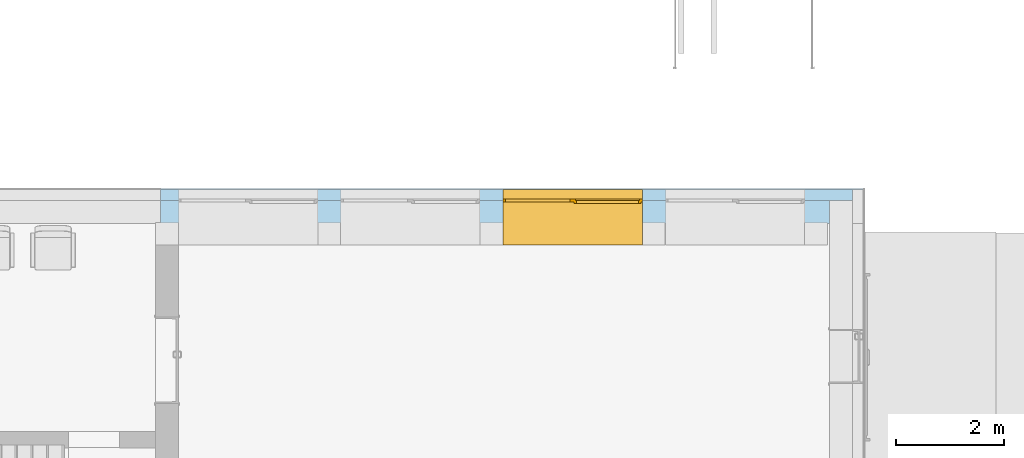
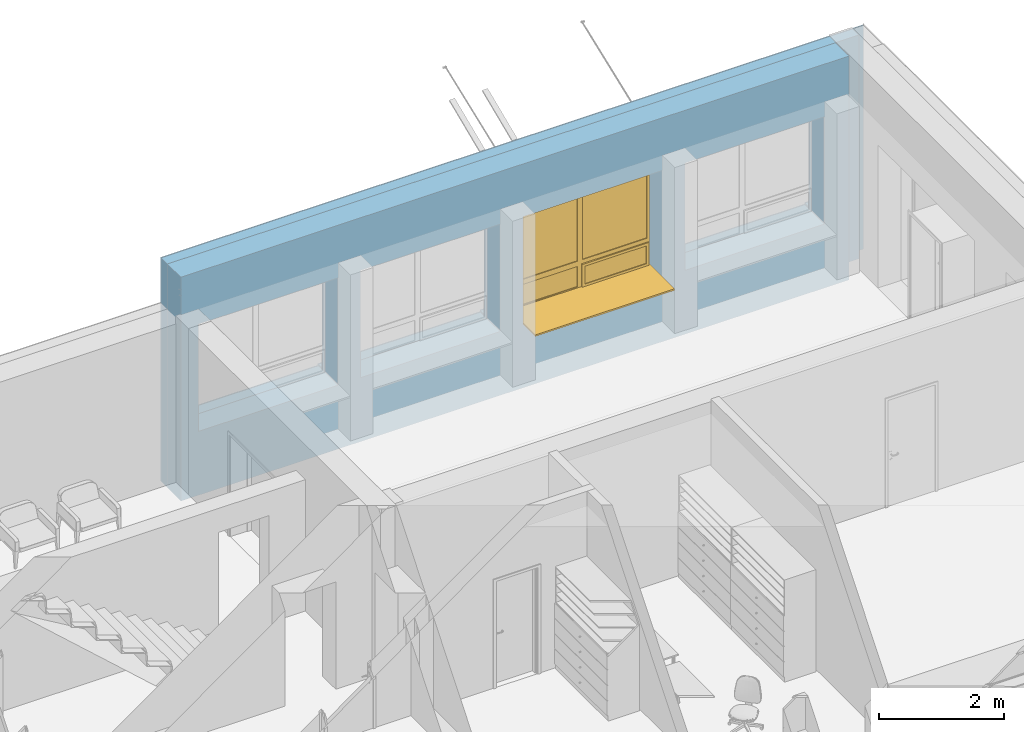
# One storey, part 100 of 194: 1 window, 4 openings, 1 element without a shape of its own, plus 3 elements that do not belong to this part.
"""IFC2X3 building model written with IfcOpenShell, lengths in millimetres."""

from ifc_helpers import new_model, entity, si_unit, converted_unit, derived_unit, money_unit, direction, frame, origin_with_axes, origin_2d_with_axis, place, context, subcontext, project, spatial, polyline, rectangle, outline, extrude, boolean, open_shell, faceted_brep, surface_model, material, type_object, element, fill, aggregate, save


model = new_model("IFC2X3")

# Units and contexts
model_context = context("Model", 3, precision=1e-05, world=origin_with_axes(), true_north=direction((0.0, 1.0)))
body_context = subcontext(model_context, "Body", "Model", "MODEL_VIEW")
ifc_project = project(units=[si_unit("LENGTHUNIT", "METRE", prefix="MILLI"), si_unit("AREAUNIT", "SQUARE_METRE"), si_unit("VOLUMEUNIT", "CUBIC_METRE"), converted_unit("PLANEANGLEUNIT", "DEGREE", entity("IfcPlaneAngleMeasure", 0.0174532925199), si_unit("PLANEANGLEUNIT", "RADIAN"), dimensions=[0, 0, 0, 0, 0, 0, 0]), si_unit("SOLIDANGLEUNIT", "STERADIAN"), money_unit("EUR"), converted_unit("TIMEUNIT", "Year", entity("IfcTimeMeasure", 31556926.0), si_unit("TIMEUNIT", "SECOND"), dimensions=[0, 0, 1, 0, 0, 0, 0]), si_unit("MASSUNIT", "GRAM", prefix="KILO"), si_unit("THERMODYNAMICTEMPERATUREUNIT", "DEGREE_CELSIUS"), si_unit("LUMINOUSINTENSITYUNIT", "LUMEN"), si_unit("ENERGYUNIT", "JOULE", prefix="MEGA"), derived_unit("THERMALCONDUCTANCEUNIT", [(si_unit("POWERUNIT", "WATT"), 1), (si_unit("LENGTHUNIT", "METRE"), -1), (si_unit("THERMODYNAMICTEMPERATUREUNIT", "KELVIN"), -1)]), derived_unit("SPECIFICHEATCAPACITYUNIT", [(si_unit("ENERGYUNIT", "JOULE"), 1), (si_unit("MASSUNIT", "GRAM", prefix="KILO"), -1), (si_unit("THERMODYNAMICTEMPERATUREUNIT", "KELVIN"), -1)]), derived_unit("MASSDENSITYUNIT", [(si_unit("MASSUNIT", "GRAM", prefix="KILO"), 1), (si_unit("VOLUMEUNIT", "CUBIC_METRE"), -1)])], contexts=[model_context])

# Site, building, storey
site_placement = place(None, origin_with_axes())
site = spatial("IfcSite", under=ifc_project, at=site_placement, Name="Site", CompositionType="ELEMENT")
building_placement = place(site_placement, origin_with_axes())
building = spatial("IfcBuilding", under=site, at=building_placement, Name="Building", CompositionType="ELEMENT")
storey_placement = place(building_placement, frame((0.0, 0.0, 3000.0), z_axis=(0.0, 0.0, 1.0), x_axis=(1.0, 0.0, 0.0)))
storey = spatial("IfcBuildingStorey", under=building, at=storey_placement, Name="2 KORRUS", CompositionType="ELEMENT", Elevation=3000.0)

# Window
window_style = type_object("IfcWindowStyle", Name="A2   2\xa0580×2\xa0100", ConstructionType="NOTDEFINED", OperationType="USERDEFINED", ParameterTakesPrecedence=False, Sizeable=False)
wall_placement = place(storey_placement, frame((87829.1670684, 47302.325893, -400.0), z_axis=(0.0, 0.0, 1.0), x_axis=(1.0, 0.0, 0.0)))
opening_2_placement = place(wall_placement, frame((7618.18571631, 0.0, 1250.0), z_axis=(0.0, 0.0, 1.0), x_axis=(1.0, 0.0, 0.0)))
window_placement = place(opening_2_placement, frame((1290.0, 0.0, 0.0), z_axis=(0.0, 0.0, 1.0), x_axis=(-1.0, 0.0, 0.0)))
window = element("IfcWindow", 1, at=window_placement, inside=storey, type_object=window_style, Name="välisaken * Double Window 22", OverallHeight=2100.0, OverallWidth=2580.0, context=body_context, shape_type="SurfaceModel", body=[
    faceted_brep([(2580.0, -219.999999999, 5.0), (2580.0, -19.9999999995, 5.0), (2580.0, -19.9999999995, 30.0), (2580.0, -219.999999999, 19.5184441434), (0.0, -19.9999999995, 5.0), (0.0, -219.999999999, 5.0), (0.0, -19.9999999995, 30.0), (0.0, -219.999999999, 19.5184441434)], [[[0, 1, 2, 3]], [[4, 1, 0, 5]], [[1, 4, 6, 2]], [[3, 2, 6, 7]], [[5, 0, 3, 7]], [[4, 5, 7, 6]]]),
    faceted_brep([(2580.0, -19.9999999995, 0.0), (2580.0, -19.9999999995, 5.0), (2580.0, -219.999999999, 5.0), (2580.0, -219.999999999, 0.0), (0.0, -19.9999999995, 0.0), (0.0, -19.9999999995, 5.0), (0.0, -219.999999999, 5.0), (0.0, -219.999999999, 0.0)], [[[0, 1, 2, 3]], [[4, 5, 1, 0]], [[1, 5, 6, 2]], [[3, 2, 6, 7]], [[0, 3, 7, 4]], [[7, 6, 5, 4]]]),
    faceted_brep([(0.0, 30.0000000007, 0.0), (0.0, 30.0000000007, 30.0), (0.0, 430.0, 30.0), (0.0, 430.0, 0.0), (2580.0, 30.0000000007, 0.0), (2580.0, 30.0000000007, 30.0), (2580.0, 430.0, 30.0), (2580.0, 830.000000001, 30.0), (0.0, 830.000000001, 30.0), (0.0, 830.000000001, 0.0), (2580.0, 830.000000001, 0.0), (2580.0, 430.0, 0.0)], [[[0, 1, 2, 3]], [[4, 5, 1, 0]], [[1, 5, 6, 7, 8, 2]], [[3, 2, 8, 9]], [[0, 3, 9, 10, 11, 4]], [[11, 6, 5, 4]], [[10, 7, 6, 11]], [[9, 8, 7, 10]]]),
    faceted_brep([(25.0, 30.0000000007, 475.0), (25.0, 30.0000000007, 50.0), (0.0, 30.0000000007, 50.0), (0.0, 30.0000000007, 2050.0), (50.0, 30.0000000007, 2050.0), (50.0, 30.0000000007, 550.0), (50.0, 30.0000000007, 475.0), (25.0, 5.00000000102, 475.0), (25.0, 5.00000000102, 50.0), (50.0, 5.00000000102, 50.0), (50.0, -19.9999999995, 50.0), (0.0, -19.9999999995, 50.0), (0.0, -19.9999999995, 2050.0), (50.0, -19.9999999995, 2050.0), (50.0, -19.9999999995, 550.0), (50.0, 5.00000000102, 475.0), (50.0, -19.9999999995, 450.0), (50.0, 5.00000000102, 450.0)], [[[0, 1, 2, 3, 4, 5, 6]], [[1, 0, 7, 8]], [[8, 9, 10, 11, 2, 1]], [[2, 11, 12, 3]], [[3, 12, 13, 4]], [[4, 13, 14, 5]], [[15, 6, 5, 14, 16, 17]], [[0, 6, 15, 7]], [[9, 8, 7, 15, 17]], [[9, 17, 16, 10]], [[11, 10, 16, 14, 13, 12]]]),
    faceted_brep([(1265.0, 30.0000000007, 50.0), (1265.0, 30.0000000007, 475.0), (1240.0, 30.0000000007, 475.0), (1240.0, 30.0000000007, 550.0), (1240.0, 30.0000000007, 2050.0), (1340.0, 30.0000000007, 2050.0), (1340.0, 30.0000000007, 550.0), (1340.0, 30.0000000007, 450.0), (1340.0, 30.0000000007, 50.0), (1265.0, 5.00000000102, 50.0), (1265.0, 5.00000000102, 475.0), (1240.0, 5.00000000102, 475.0), (1240.0, 5.00000000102, 450.0), (1240.0, -19.9999999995, 450.0), (1240.0, -19.9999999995, 550.0), (1240.0, -19.9999999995, 2050.0), (1340.0, -19.9999999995, 2050.0), (1340.0, -19.9999999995, 550.0), (1340.0, -19.9999999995, 450.0), (1340.0, -19.9999999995, 50.0), (1240.0, -19.9999999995, 50.0), (1240.0, 5.00000000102, 50.0)], [[[0, 1, 2, 3, 4, 5, 6, 7, 8]], [[1, 0, 9, 10]], [[11, 2, 1, 10]], [[11, 12, 13, 14, 3, 2]], [[3, 14, 15, 4]], [[4, 15, 16, 5]], [[5, 16, 17, 6]], [[6, 17, 18, 7]], [[7, 18, 19, 8]], [[9, 0, 8, 19, 20, 21]], [[12, 11, 10, 9, 21]], [[12, 21, 20, 13]], [[18, 17, 16, 15, 14, 13, 20, 19]]]),
    faceted_brep([(1240.0, 30.0000000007, 475.0), (50.0, 30.0000000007, 475.0), (50.0, 30.0000000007, 550.0), (1240.0, 30.0000000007, 550.0), (50.0, 5.00000000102, 475.0), (1240.0, 5.00000000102, 475.0), (50.0, 5.00000000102, 450.0), (50.0, -19.9999999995, 450.0), (50.0, -19.9999999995, 550.0), (1240.0, -19.9999999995, 550.0), (1240.0, -19.9999999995, 450.0), (1240.0, 5.00000000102, 450.0)], [[[0, 1, 2, 3]], [[4, 1, 0, 5]], [[4, 6, 7, 8, 2, 1]], [[2, 8, 9, 3]], [[5, 0, 3, 9, 10, 11]], [[6, 4, 5, 11]], [[6, 11, 10, 7]], [[10, 9, 8, 7]]]),
    faceted_brep([(50.0, 5.00000000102, 50.0), (25.0, 5.00000000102, 50.0), (25.0, 30.0000000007, 50.0), (0.0, 30.0000000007, 50.0), (0.0, -19.9999999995, 50.0), (50.0, -19.9999999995, 50.0), (1240.0, 5.00000000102, 50.0), (1265.0, 5.00000000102, 50.0), (1265.0, 5.00000000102, 25.0), (25.0, 5.00000000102, 25.0), (25.0, 30.0000000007, 25.0), (1265.0, 30.0000000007, 25.0), (1265.0, 30.0000000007, 50.0), (1340.0, 30.0000000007, 50.0), (2530.0, 30.0000000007, 50.0), (2580.0, 30.0000000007, 50.0), (2580.0, 30.0000000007, 0.0), (0.0, 30.0000000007, 0.0), (0.0, -19.9999999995, 0.0), (2580.0, -19.9999999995, 50.0), (2530.0, -19.9999999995, 50.0), (1340.0, -19.9999999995, 50.0), (1240.0, -19.9999999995, 50.0), (2580.0, -19.9999999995, 0.0)], [[[0, 1, 2, 3, 4, 5]], [[1, 0, 6, 7, 8, 9]], [[10, 2, 1, 9]], [[11, 12, 13, 14, 15, 16, 17, 3, 2, 10]], [[17, 18, 4, 3]], [[19, 20, 21, 22, 5, 4, 18, 23]], [[6, 0, 5, 22]], [[7, 6, 22, 21, 13, 12]], [[7, 12, 11, 8]], [[11, 10, 9, 8]], [[13, 21, 20, 14]], [[14, 20, 19, 15]], [[15, 19, 23, 16]], [[16, 23, 18, 17]]]),
    faceted_brep([(2530.0, -19.9999999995, 450.0), (2530.0, -19.9999999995, 550.0), (2530.0, 30.0000000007, 550.0), (2530.0, 30.0000000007, 450.0), (2530.0, -19.9999999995, 50.0), (2580.0, -19.9999999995, 50.0), (2580.0, -19.9999999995, 2050.0), (2530.0, -19.9999999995, 2050.0), (2530.0, 30.0000000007, 2050.0), (2580.0, 30.0000000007, 2050.0), (2580.0, 30.0000000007, 50.0), (2530.0, 30.0000000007, 50.0)], [[[0, 1, 2, 3]], [[0, 4, 5, 6, 7, 1]], [[1, 7, 8, 2]], [[3, 2, 8, 9, 10, 11]], [[4, 0, 3, 11]], [[5, 4, 11, 10]], [[6, 5, 10, 9]], [[7, 6, 9, 8]]]),
    faceted_brep([(1340.0, -19.9999999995, 450.0), (1340.0, -19.9999999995, 550.0), (1340.0, 30.0000000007, 550.0), (1340.0, 30.0000000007, 450.0), (2530.0, -19.9999999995, 450.0), (2530.0, -19.9999999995, 550.0), (2530.0, 30.0000000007, 550.0), (2530.0, 30.0000000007, 450.0)], [[[0, 1, 2, 3]], [[0, 4, 5, 1]], [[1, 5, 6, 2]], [[3, 2, 6, 7]], [[4, 0, 3, 7]], [[5, 4, 7, 6]]]),
    faceted_brep([(1340.0, -19.9999999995, 2050.0), (1240.0, -19.9999999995, 2050.0), (1240.0, 30.0000000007, 2050.0), (1340.0, 30.0000000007, 2050.0), (2530.0, -19.9999999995, 2050.0), (2580.0, -19.9999999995, 2050.0), (2580.0, -19.9999999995, 2100.0), (0.0, -19.9999999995, 2100.0), (0.0, -19.9999999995, 2050.0), (50.0, -19.9999999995, 2050.0), (50.0, 30.0000000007, 2050.0), (0.0, 30.0000000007, 2050.0), (0.0, 30.0000000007, 2100.0), (2580.0, 30.0000000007, 2100.0), (2580.0, 30.0000000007, 2050.0), (2530.0, 30.0000000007, 2050.0)], [[[0, 1, 2, 3]], [[0, 4, 5, 6, 7, 8, 9, 1]], [[1, 9, 10, 2]], [[3, 2, 10, 11, 12, 13, 14, 15]], [[4, 0, 3, 15]], [[5, 4, 15, 14]], [[6, 5, 14, 13]], [[7, 6, 13, 12]], [[8, 7, 12, 11]], [[9, 8, 11, 10]]]),
    surface_model("IfcShellBasedSurfaceModel", [(2530.0, -4.9999999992, 550.0), (2530.0, -4.9999999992, 2050.0), (1340.0, -4.9999999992, 2050.0), (1340.0, -4.9999999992, 550.0)], [open_shell([[[0, 1, 2, 3]]])]),
    surface_model("IfcShellBasedSurfaceModel", [(2530.0, 15.0000000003, 550.0), (1340.0, 15.0000000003, 550.0), (1340.0, 15.0000000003, 2050.0), (2530.0, 15.0000000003, 2050.0)], [open_shell([[[0, 1, 2, 3]]])]),
    surface_model("IfcShellBasedSurfaceModel", [(1240.0, -4.9999999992, 550.0), (1240.0, -4.9999999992, 2050.0), (50.0, -4.9999999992, 2050.0), (50.0, -4.9999999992, 550.0)], [open_shell([[[0, 1, 2, 3]]])]),
    surface_model("IfcShellBasedSurfaceModel", [(1240.0, 15.0000000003, 550.0), (50.0, 15.0000000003, 550.0), (50.0, 15.0000000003, 2050.0), (1240.0, 15.0000000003, 2050.0)], [open_shell([[[0, 1, 2, 3]]])]),
    surface_model("IfcShellBasedSurfaceModel", [(2530.0, -4.9999999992, 50.0), (2530.0, -4.9999999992, 450.0), (1340.0, -4.9999999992, 450.0), (1340.0, -4.9999999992, 50.0)], [open_shell([[[0, 1, 2, 3]]])]),
    surface_model("IfcShellBasedSurfaceModel", [(2530.0, 15.0000000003, 50.0), (1340.0, 15.0000000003, 50.0), (1340.0, 15.0000000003, 450.0), (2530.0, 15.0000000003, 450.0)], [open_shell([[[0, 1, 2, 3]]])]),
    faceted_brep([(1215.0, 5.00000000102, 425.0), (1265.0, 5.00000000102, 425.0), (1265.0, 55.0000000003, 425.0), (1215.0, 55.0000000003, 425.0), (1215.0, 5.00000000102, 75.0), (1265.0, 5.00000000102, 75.0), (1265.0, 55.0000000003, 75.0), (1215.0, 55.0000000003, 75.0)], [[[0, 1, 2, 3]], [[0, 4, 5, 1]], [[1, 5, 6, 2]], [[3, 2, 6, 7]], [[4, 0, 3, 7]], [[5, 4, 7, 6]]]),
    faceted_brep([(74.9999999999, 5.00000000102, 75.0), (25.0, 5.00000000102, 75.0), (25.0, 55.0000000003, 75.0), (74.9999999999, 55.0000000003, 75.0), (74.9999999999, 5.00000000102, 425.0), (25.0, 5.00000000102, 425.0), (25.0, 55.0000000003, 425.0), (74.9999999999, 55.0000000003, 425.0)], [[[0, 1, 2, 3]], [[0, 4, 5, 1]], [[1, 5, 6, 2]], [[3, 2, 6, 7]], [[4, 0, 3, 7]], [[5, 4, 7, 6]]]),
    faceted_brep([(25.0, 5.00000000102, 25.0), (25.0, 5.00000000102, 75.0), (25.0, 55.0000000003, 75.0), (25.0, 55.0000000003, 25.0), (1265.0, 5.00000000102, 25.0), (1265.0, 5.00000000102, 75.0), (1215.0, 5.00000000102, 75.0), (74.9999999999, 5.00000000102, 75.0), (74.9999999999, 55.0000000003, 75.0), (1215.0, 55.0000000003, 75.0), (1265.0, 55.0000000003, 75.0), (1265.0, 55.0000000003, 25.0)], [[[0, 1, 2, 3]], [[0, 4, 5, 6, 7, 1]], [[1, 7, 8, 2]], [[3, 2, 8, 9, 10, 11]], [[4, 0, 3, 11]], [[5, 4, 11, 10]], [[6, 5, 10, 9]], [[7, 6, 9, 8]]]),
    faceted_brep([(1265.0, 5.00000000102, 475.0), (1265.0, 5.00000000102, 425.0), (1265.0, 55.0000000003, 425.0), (1265.0, 55.0000000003, 475.0), (25.0, 5.00000000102, 475.0), (25.0, 5.00000000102, 425.0), (74.9999999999, 5.00000000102, 425.0), (1215.0, 5.00000000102, 425.0), (1215.0, 55.0000000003, 425.0), (74.9999999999, 55.0000000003, 425.0), (25.0, 55.0000000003, 425.0), (25.0, 55.0000000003, 475.0)], [[[0, 1, 2, 3]], [[0, 4, 5, 6, 7, 1]], [[1, 7, 8, 2]], [[3, 2, 8, 9, 10, 11]], [[4, 0, 3, 11]], [[5, 4, 11, 10]], [[6, 5, 10, 9]], [[7, 6, 9, 8]]]),
    surface_model("IfcShellBasedSurfaceModel", [(1215.0, 20.0000000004, 75.0), (1215.0, 20.0000000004, 425.0), (74.9999999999, 20.0000000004, 425.0), (74.9999999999, 20.0000000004, 75.0)], [open_shell([[[0, 1, 2, 3]]])]),
    surface_model("IfcShellBasedSurfaceModel", [(1215.0, 40.0000000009, 75.0), (74.9999999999, 40.0000000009, 75.0), (74.9999999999, 40.0000000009, 425.0), (1215.0, 40.0000000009, 425.0)], [open_shell([[[0, 1, 2, 3]]])]),
])

# Wall, openings
wall_type = type_object("IfcWallType", Name="VS4", PredefinedType="NOTDEFINED")
wall = element("IfcWall", 2, at=wall_placement, inside=storey, type_object=wall_type, Name="VS4")
opening_1_placement = place(wall_placement, frame((4618.18571631, 0.0, 1250.0), z_axis=(0.0, 0.0, 1.0), x_axis=(1.0, 0.0, 0.0)))
element("IfcOpeningElement", 3, at=opening_1_placement, cuts=wall, Name="välisaken * Double Window 22", context=body_context, shape_type="SweptSolid", body=[
    extrude(rectangle(XDim=2580.0, YDim=2100.0, at=origin_2d_with_axis()), frame((0.0, 19.9999999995, 1050.0), z_axis=(0.0, -1.0, 0.0), x_axis=(1.0, 0.0, 0.0)), (0.0, 0.0, 1.0), 1100.0),
    extrude(rectangle(XDim=2580.0, YDim=2100.0, at=origin_2d_with_axis()), frame((0.0, 19.9999999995, 1050.0), z_axis=(0.0, 1.0, 0.0), x_axis=(1.0, 0.0, 0.0)), (0.0, 0.0, 1.0), 850.0),
])
opening_2 = element("IfcOpeningElement", 4, at=opening_2_placement, cuts=wall, Name="välisaken * Double Window 22", context=body_context, shape_type="SweptSolid", body=[
    extrude(rectangle(XDim=2580.0, YDim=2100.0, at=origin_2d_with_axis()), frame((0.0, 19.9999999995, 1050.0), z_axis=(0.0, -1.0, 0.0), x_axis=(1.0, 0.0, 0.0)), (0.0, 0.0, 1.0), 1100.0),
    extrude(rectangle(XDim=2580.0, YDim=2100.0, at=origin_2d_with_axis()), frame((0.0, 19.9999999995, 1050.0), z_axis=(0.0, 1.0, 0.0), x_axis=(1.0, 0.0, 0.0)), (0.0, 0.0, 1.0), 850.0),
])

fill(opening_2, window)

# Opening
opening_3_placement = place(wall_placement, frame((10622.6003401, 0.0, 1250.0), z_axis=(0.0, 0.0, 1.0), x_axis=(1.0, 0.0, 0.0)))
element("IfcOpeningElement", 5, at=opening_3_placement, cuts=wall, Name="välisaken * Double Window 22", context=body_context, shape_type="SweptSolid", body=[
    extrude(rectangle(XDim=2580.0, YDim=2100.0, at=origin_2d_with_axis()), frame((0.0, 19.9999999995, 1050.0), z_axis=(0.0, -1.0, 0.0), x_axis=(1.0, 0.0, 0.0)), (0.0, 0.0, 1.0), 1100.0),
    extrude(rectangle(XDim=2580.0, YDim=2100.0, at=origin_2d_with_axis()), frame((0.0, 19.9999999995, 1050.0), z_axis=(0.0, 1.0, 0.0), x_axis=(1.0, 0.0, 0.0)), (0.0, 0.0, 1.0), 850.0),
])

opening_4_placement = place(wall_placement, frame((1618.73994525, 0.0, 1250.0), z_axis=(0.0, 0.0, 1.0), x_axis=(1.0, 0.0, 0.0)))
element("IfcOpeningElement", 6, at=opening_4_placement, cuts=wall, Name="välisaken * Double Window 22", context=body_context, shape_type="SweptSolid", body=[
    extrude(rectangle(XDim=2580.0, YDim=2100.0, at=origin_2d_with_axis()), frame((0.0, 19.9999999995, 1050.0), z_axis=(0.0, -1.0, 0.0), x_axis=(1.0, 0.0, 0.0)), (0.0, 0.0, 1.0), 1100.0),
    extrude(rectangle(XDim=2580.0, YDim=2100.0, at=origin_2d_with_axis()), frame((0.0, 19.9999999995, 1050.0), z_axis=(0.0, 1.0, 0.0), x_axis=(1.0, 0.0, 0.0)), (0.0, 0.0, 1.0), 850.0),
])

# Building element part
ifc_material_1 = material(Name="Tellis - Konstuktsioon")
building_element_part_1_placement = place(wall_placement, origin_with_axes())
building_element_part_1 = element("IfcBuildingElementPart", 7, at=building_element_part_1_placement, material=ifc_material_1, Name="Tellis - Konstuktsioon", context=body_context, shape_type="CSG", body=[
    boolean("DIFFERENCE", boolean("DIFFERENCE", boolean("DIFFERENCE", boolean("DIFFERENCE", boolean("DIFFERENCE", boolean("DIFFERENCE", boolean("DIFFERENCE", extrude(outline(polyline([(0.0, -430.0), (13016.0388703, -430.0), (13016.0388703, 0.0), (0.0, 0.0), (0.0, -430.0)])), origin_with_axes(), (0.0, 0.0, 1.0), 4380.0), faceted_brep([(0.0, -430.0, 4010.11334593), (15.916542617, -430.0, 4010.11334593), (15.916542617, -430.0, 4012.73673389), (15.6607950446, -430.0, 4014.34624258), (14.9324875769, -430.0, 4015.71071817), (13.8424984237, -430.0, 4016.6224316), (13.0257764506, -430.0, 4016.90140389), (0.0, -430.0, 4019.18424271), (0.0, -354.519551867, 3985.58826165), (15.916542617, -354.519551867, 3985.58826165), (15.916542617, -354.519551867, 3988.21164961), (15.6607950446, -354.519551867, 3989.82115831), (14.9324875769, -354.519551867, 3991.18563389), (13.8424984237, -354.519551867, 3992.09734733), (13.0257764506, -354.519551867, 3992.37631961), (0.0, -354.519551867, 3994.65915843)], [[[0, 1, 2, 3, 4, 5, 6, 7]], [[1, 0, 8, 9]], [[2, 1, 9, 10]], [[3, 2, 10, 11]], [[4, 3, 11, 12]], [[5, 4, 12, 13]], [[6, 5, 13, 14]], [[7, 6, 14, 15]], [[8, 0, 7, 15]], [[8, 15, 14, 13, 12, 11, 10, 9]]])), faceted_brep([(15.6607950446, -430.0, 4132.05614005), (15.916542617, -430.0, 4133.66564874), (15.916542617, -430.0, 4136.28903671), (0.0, -430.0, 4136.28903671), (0.0, -430.0, 4127.21813993), (13.0257764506, -430.0, 4129.50097875), (13.8424984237, -430.0, 4129.77995103), (14.9324875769, -430.0, 4130.69166447), (15.6607950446, -354.519551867, 4107.53105577), (15.916542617, -354.519551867, 4109.14056446), (15.916542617, -354.519551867, 4111.76395243), (0.0, -354.519551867, 4111.76395243), (0.0, -354.519551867, 4102.69305565), (13.0257764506, -354.519551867, 4104.97589447), (13.8424984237, -354.519551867, 4105.25486675), (14.9324875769, -354.519551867, 4106.16658019)], [[[0, 1, 2, 3, 4, 5, 6, 7]], [[1, 0, 8, 9]], [[2, 1, 9, 10]], [[3, 2, 10, 11]], [[12, 4, 3, 11]], [[5, 4, 12, 13]], [[6, 5, 13, 14]], [[7, 6, 14, 15]], [[0, 7, 15, 8]], [[12, 11, 10, 9, 8, 15, 14, 13]]])), faceted_brep([(12365.9726529, 0.0, 4380.0), (12366.0388626, -430.0, 4380.0), (13016.0388703, -430.0, 4380.0), (13016.0388703, 0.0, 4380.0), (12366.0388626, -430.0, 0.0), (12365.9726529, 0.0, 0.0), (13016.0388703, -430.0, 0.0), (13016.0388703, 0.0, 0.0)], [[[0, 1, 2, 3]], [[4, 1, 0, 5]], [[1, 4, 6, 2]], [[2, 6, 7, 3]], [[5, 0, 3, 7]], [[4, 5, 7, 6]]])), faceted_brep([(124.191637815, 200.0, 1280.0), (124.191637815, 200.0, 3380.0), (12406.3440914, 200.0, 3380.0), (12406.3440914, 200.0, 1280.0), (124.191637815, 90.86534167, 1280.0), (124.191637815, 90.86534167, 3380.0), (12406.3440914, 90.8653416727, 3380.0), (12406.3440914, 90.8653416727, 1280.0)], [[[0, 1, 2, 3]], [[1, 0, 4, 5]], [[2, 1, 5, 6]], [[3, 2, 6, 7]], [[0, 3, 7, 4]], [[4, 7, 6, 5]]])), faceted_brep([(12795.9418628, 200.0, 4380.0), (12795.972658, 0.0, 4380.0), (13016.0388703, 0.0, 4380.0), (13016.0388703, 200.0, 4380.0), (12795.972658, 0.0, 0.0), (12795.9418628, 200.0, 0.0), (13016.0388703, 0.0, 0.0), (13016.0388703, 200.0, 0.0)], [[[0, 1, 2, 3]], [[4, 1, 0, 5]], [[1, 4, 6, 2]], [[2, 6, 7, 3]], [[5, 0, 3, 7]], [[4, 5, 7, 6]]])), faceted_brep([(124.191637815, 200.0, 1280.0), (12406.3440914, 200.0, 1280.0), (12406.3440914, 200.0, 3380.0), (124.191637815, 200.0, 3380.0), (124.191637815, 220.0, 1280.0), (12406.3440914, 220.0, 1280.0), (12406.3440914, 220.0, 3380.0), (124.191637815, 220.0, 3380.0)], [[[0, 1, 2, 3]], [[4, 5, 1, 0]], [[5, 6, 2, 1]], [[6, 7, 3, 2]], [[7, 4, 0, 3]], [[4, 7, 6, 5]]])), faceted_brep([(12995.9387857, 220.0, 0.0), (12995.9387857, 220.0, 4380.0), (13016.0388703, 220.0, 4380.0), (13016.0388703, 220.0, 0.0), (12995.9418652, 200.0, 4380.0), (12995.9418652, 200.0, 0.0), (13016.0388703, 200.0, 4380.0), (13016.0388703, 200.0, 0.0)], [[[0, 1, 2, 3]], [[4, 1, 0, 5]], [[1, 4, 6, 2]], [[6, 7, 3, 2]], [[5, 0, 3, 7]], [[4, 5, 7, 6]]])),
])

ifc_material_2 = material(Name="Soojustus - Plastik Kõva")
building_element_part_2_placement = place(wall_placement, origin_with_axes())
building_element_part_2 = element("IfcBuildingElementPart", 8, at=building_element_part_2_placement, material=ifc_material_2, Name="Soojustus - Plastik Kõva", context=body_context, shape_type="CSG", body=[
    boolean("DIFFERENCE", boolean("DIFFERENCE", boolean("DIFFERENCE", boolean("DIFFERENCE", boolean("DIFFERENCE", boolean("DIFFERENCE", boolean("DIFFERENCE", extrude(outline(polyline([(0.0, 0.0), (13016.0388703, 0.0), (13016.0388703, 200.0), (0.0, 200.0), (0.0, 0.0)])), origin_with_axes(), (0.0, 0.0, 1.0), 4380.0), faceted_brep([(0.0, -430.0, 4010.11334593), (15.916542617, -430.0, 4010.11334593), (15.916542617, -430.0, 4012.73673389), (15.6607950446, -430.0, 4014.34624258), (14.9324875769, -430.0, 4015.71071817), (13.8424984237, -430.0, 4016.6224316), (13.0257764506, -430.0, 4016.90140389), (0.0, -430.0, 4019.18424271), (0.0, -354.519551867, 3985.58826165), (15.916542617, -354.519551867, 3985.58826165), (15.916542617, -354.519551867, 3988.21164961), (15.6607950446, -354.519551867, 3989.82115831), (14.9324875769, -354.519551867, 3991.18563389), (13.8424984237, -354.519551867, 3992.09734733), (13.0257764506, -354.519551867, 3992.37631961), (0.0, -354.519551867, 3994.65915843)], [[[0, 1, 2, 3, 4, 5, 6, 7]], [[1, 0, 8, 9]], [[2, 1, 9, 10]], [[3, 2, 10, 11]], [[4, 3, 11, 12]], [[5, 4, 12, 13]], [[6, 5, 13, 14]], [[7, 6, 14, 15]], [[8, 0, 7, 15]], [[8, 15, 14, 13, 12, 11, 10, 9]]])), faceted_brep([(15.6607950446, -430.0, 4132.05614005), (15.916542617, -430.0, 4133.66564874), (15.916542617, -430.0, 4136.28903671), (0.0, -430.0, 4136.28903671), (0.0, -430.0, 4127.21813993), (13.0257764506, -430.0, 4129.50097875), (13.8424984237, -430.0, 4129.77995103), (14.9324875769, -430.0, 4130.69166447), (15.6607950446, -354.519551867, 4107.53105577), (15.916542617, -354.519551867, 4109.14056446), (15.916542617, -354.519551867, 4111.76395243), (0.0, -354.519551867, 4111.76395243), (0.0, -354.519551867, 4102.69305565), (13.0257764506, -354.519551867, 4104.97589447), (13.8424984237, -354.519551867, 4105.25486675), (14.9324875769, -354.519551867, 4106.16658019)], [[[0, 1, 2, 3, 4, 5, 6, 7]], [[1, 0, 8, 9]], [[2, 1, 9, 10]], [[3, 2, 10, 11]], [[12, 4, 3, 11]], [[5, 4, 12, 13]], [[6, 5, 13, 14]], [[7, 6, 14, 15]], [[0, 7, 15, 8]], [[12, 11, 10, 9, 8, 15, 14, 13]]])), faceted_brep([(12365.9726529, 0.0, 4380.0), (12366.0388626, -430.0, 4380.0), (13016.0388703, -430.0, 4380.0), (13016.0388703, 0.0, 4380.0), (12366.0388626, -430.0, 0.0), (12365.9726529, 0.0, 0.0), (13016.0388703, -430.0, 0.0), (13016.0388703, 0.0, 0.0)], [[[0, 1, 2, 3]], [[4, 1, 0, 5]], [[1, 4, 6, 2]], [[2, 6, 7, 3]], [[5, 0, 3, 7]], [[4, 5, 7, 6]]])), faceted_brep([(124.191637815, 200.0, 1280.0), (124.191637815, 200.0, 3380.0), (12406.3440914, 200.0, 3380.0), (12406.3440914, 200.0, 1280.0), (124.191637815, 90.86534167, 1280.0), (124.191637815, 90.86534167, 3380.0), (12406.3440914, 90.8653416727, 3380.0), (12406.3440914, 90.8653416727, 1280.0)], [[[0, 1, 2, 3]], [[1, 0, 4, 5]], [[2, 1, 5, 6]], [[3, 2, 6, 7]], [[0, 3, 7, 4]], [[4, 7, 6, 5]]])), faceted_brep([(12795.9418628, 200.0, 4380.0), (12795.972658, 0.0, 4380.0), (13016.0388703, 0.0, 4380.0), (13016.0388703, 200.0, 4380.0), (12795.972658, 0.0, 0.0), (12795.9418628, 200.0, 0.0), (13016.0388703, 0.0, 0.0), (13016.0388703, 200.0, 0.0)], [[[0, 1, 2, 3]], [[4, 1, 0, 5]], [[1, 4, 6, 2]], [[2, 6, 7, 3]], [[5, 0, 3, 7]], [[4, 5, 7, 6]]])), faceted_brep([(124.191637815, 200.0, 1280.0), (12406.3440914, 200.0, 1280.0), (12406.3440914, 200.0, 3380.0), (124.191637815, 200.0, 3380.0), (124.191637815, 220.0, 1280.0), (12406.3440914, 220.0, 1280.0), (12406.3440914, 220.0, 3380.0), (124.191637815, 220.0, 3380.0)], [[[0, 1, 2, 3]], [[4, 5, 1, 0]], [[5, 6, 2, 1]], [[6, 7, 3, 2]], [[7, 4, 0, 3]], [[4, 7, 6, 5]]])), faceted_brep([(12995.9387857, 220.0, 0.0), (12995.9387857, 220.0, 4380.0), (13016.0388703, 220.0, 4380.0), (13016.0388703, 220.0, 0.0), (12995.9418652, 200.0, 4380.0), (12995.9418652, 200.0, 0.0), (13016.0388703, 200.0, 4380.0), (13016.0388703, 200.0, 0.0)], [[[0, 1, 2, 3]], [[4, 1, 0, 5]], [[1, 4, 6, 2]], [[6, 7, 3, 2]], [[5, 0, 3, 7]], [[4, 5, 7, 6]]])),
])

ifc_material_3 = material(Name="Tellis - Viimistlus")
building_element_part_3_placement = place(wall_placement, origin_with_axes())
building_element_part_3 = element("IfcBuildingElementPart", 9, at=building_element_part_3_placement, material=ifc_material_3, Name="Tellis - Viimistlus", context=body_context, shape_type="CSG", body=[
    boolean("DIFFERENCE", boolean("DIFFERENCE", boolean("DIFFERENCE", boolean("DIFFERENCE", boolean("DIFFERENCE", boolean("DIFFERENCE", boolean("DIFFERENCE", extrude(outline(polyline([(0.0, 200.0), (13016.0388703, 200.0), (13016.0388703, 220.0), (0.0, 220.0), (0.0, 200.0)])), origin_with_axes(), (0.0, 0.0, 1.0), 4380.0), faceted_brep([(0.0, -430.0, 4010.11334593), (15.916542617, -430.0, 4010.11334593), (15.916542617, -430.0, 4012.73673389), (15.6607950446, -430.0, 4014.34624258), (14.9324875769, -430.0, 4015.71071817), (13.8424984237, -430.0, 4016.6224316), (13.0257764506, -430.0, 4016.90140389), (0.0, -430.0, 4019.18424271), (0.0, -354.519551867, 3985.58826165), (15.916542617, -354.519551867, 3985.58826165), (15.916542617, -354.519551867, 3988.21164961), (15.6607950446, -354.519551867, 3989.82115831), (14.9324875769, -354.519551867, 3991.18563389), (13.8424984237, -354.519551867, 3992.09734733), (13.0257764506, -354.519551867, 3992.37631961), (0.0, -354.519551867, 3994.65915843)], [[[0, 1, 2, 3, 4, 5, 6, 7]], [[1, 0, 8, 9]], [[2, 1, 9, 10]], [[3, 2, 10, 11]], [[4, 3, 11, 12]], [[5, 4, 12, 13]], [[6, 5, 13, 14]], [[7, 6, 14, 15]], [[8, 0, 7, 15]], [[8, 15, 14, 13, 12, 11, 10, 9]]])), faceted_brep([(15.6607950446, -430.0, 4132.05614005), (15.916542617, -430.0, 4133.66564874), (15.916542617, -430.0, 4136.28903671), (0.0, -430.0, 4136.28903671), (0.0, -430.0, 4127.21813993), (13.0257764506, -430.0, 4129.50097875), (13.8424984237, -430.0, 4129.77995103), (14.9324875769, -430.0, 4130.69166447), (15.6607950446, -354.519551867, 4107.53105577), (15.916542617, -354.519551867, 4109.14056446), (15.916542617, -354.519551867, 4111.76395243), (0.0, -354.519551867, 4111.76395243), (0.0, -354.519551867, 4102.69305565), (13.0257764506, -354.519551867, 4104.97589447), (13.8424984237, -354.519551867, 4105.25486675), (14.9324875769, -354.519551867, 4106.16658019)], [[[0, 1, 2, 3, 4, 5, 6, 7]], [[1, 0, 8, 9]], [[2, 1, 9, 10]], [[3, 2, 10, 11]], [[12, 4, 3, 11]], [[5, 4, 12, 13]], [[6, 5, 13, 14]], [[7, 6, 14, 15]], [[0, 7, 15, 8]], [[12, 11, 10, 9, 8, 15, 14, 13]]])), faceted_brep([(12365.9726529, 0.0, 4380.0), (12366.0388626, -430.0, 4380.0), (13016.0388703, -430.0, 4380.0), (13016.0388703, 0.0, 4380.0), (12366.0388626, -430.0, 0.0), (12365.9726529, 0.0, 0.0), (13016.0388703, -430.0, 0.0), (13016.0388703, 0.0, 0.0)], [[[0, 1, 2, 3]], [[4, 1, 0, 5]], [[1, 4, 6, 2]], [[2, 6, 7, 3]], [[5, 0, 3, 7]], [[4, 5, 7, 6]]])), faceted_brep([(124.191637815, 200.0, 1280.0), (124.191637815, 200.0, 3380.0), (12406.3440914, 200.0, 3380.0), (12406.3440914, 200.0, 1280.0), (124.191637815, 90.86534167, 1280.0), (124.191637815, 90.86534167, 3380.0), (12406.3440914, 90.8653416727, 3380.0), (12406.3440914, 90.8653416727, 1280.0)], [[[0, 1, 2, 3]], [[1, 0, 4, 5]], [[2, 1, 5, 6]], [[3, 2, 6, 7]], [[0, 3, 7, 4]], [[4, 7, 6, 5]]])), faceted_brep([(12795.9418628, 200.0, 4380.0), (12795.972658, 0.0, 4380.0), (13016.0388703, 0.0, 4380.0), (13016.0388703, 200.0, 4380.0), (12795.972658, 0.0, 0.0), (12795.9418628, 200.0, 0.0), (13016.0388703, 0.0, 0.0), (13016.0388703, 200.0, 0.0)], [[[0, 1, 2, 3]], [[4, 1, 0, 5]], [[1, 4, 6, 2]], [[2, 6, 7, 3]], [[5, 0, 3, 7]], [[4, 5, 7, 6]]])), faceted_brep([(124.191637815, 200.0, 1280.0), (12406.3440914, 200.0, 1280.0), (12406.3440914, 200.0, 3380.0), (124.191637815, 200.0, 3380.0), (124.191637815, 220.0, 1280.0), (12406.3440914, 220.0, 1280.0), (12406.3440914, 220.0, 3380.0), (124.191637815, 220.0, 3380.0)], [[[0, 1, 2, 3]], [[4, 5, 1, 0]], [[5, 6, 2, 1]], [[6, 7, 3, 2]], [[7, 4, 0, 3]], [[4, 7, 6, 5]]])), faceted_brep([(12995.9387857, 220.0, 0.0), (12995.9387857, 220.0, 4380.0), (13016.0388703, 220.0, 4380.0), (13016.0388703, 220.0, 0.0), (12995.9418652, 200.0, 4380.0), (12995.9418652, 200.0, 0.0), (13016.0388703, 200.0, 4380.0), (13016.0388703, 200.0, 0.0)], [[[0, 1, 2, 3]], [[4, 1, 0, 5]], [[1, 4, 6, 2]], [[6, 7, 3, 2]], [[5, 0, 3, 7]], [[4, 5, 7, 6]]])),
])

aggregate(wall, [building_element_part_1, building_element_part_2, building_element_part_3])

save(model, "model.ifc")
